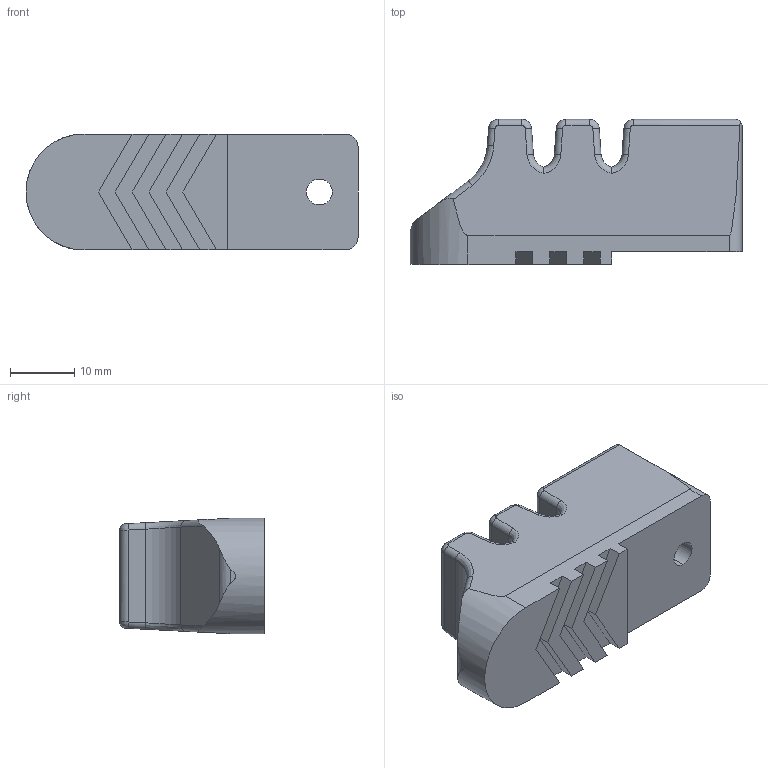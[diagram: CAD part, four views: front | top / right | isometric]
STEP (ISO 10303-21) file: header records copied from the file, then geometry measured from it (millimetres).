
FILE_DESCRIPTION (( 'STEP AP214' ), '1' );
FILE_NAME ('B3.STEP', '2019-12-04T07:20:16', ( '微软用户' ), ( '微软中国' ), 'SwSTEP 2.0', 'SolidWorks 2016', '' );
FILE_SCHEMA (( 'AUTOMOTIVE_DESIGN' ));
Length unit declared in the file: millimetre
Products named in the file (1): B3
Bounding box: 51.53 x 22.5 x 18 mm (x, y, z)
Volume: 15228.4 mm3; surface area: 4900 mm2
Topology: 1 solids, 1 shells, 91 faces, 231 edges, 142 vertices
Faces by surface type: plane 36, cylinder 35, bspline 20
Entity records: 4905 total; most frequent: CARTESIAN_POINT 1903, ORIENTED_EDGE 462, DIRECTION 349, EDGE_CURVE 231, VERTEX_POINT 142, VECTOR 131, LINE 131, AXIS2_PLACEMENT_3D 109
